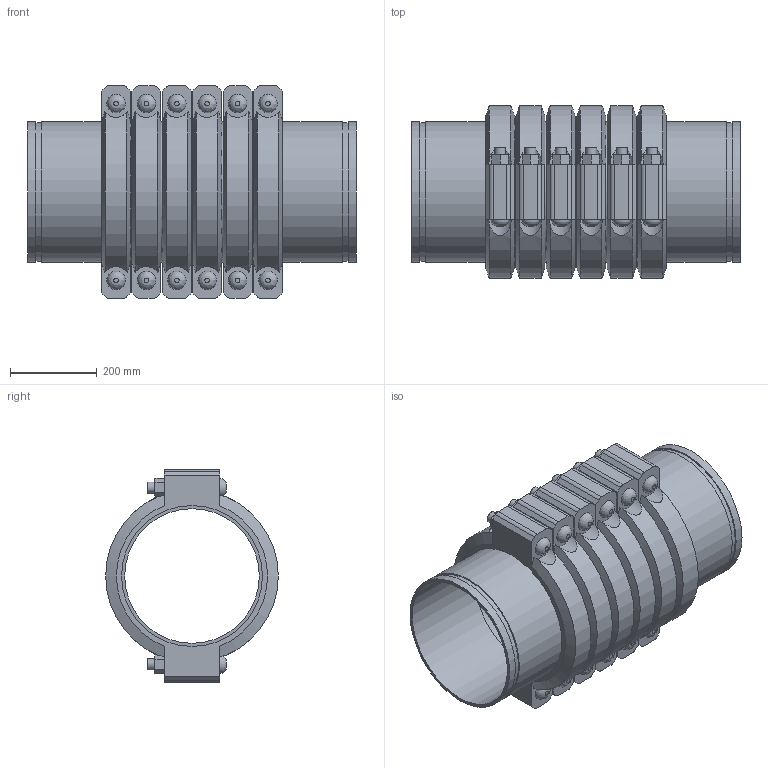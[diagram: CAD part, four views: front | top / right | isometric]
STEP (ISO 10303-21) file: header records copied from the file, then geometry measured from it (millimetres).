
FILE_DESCRIPTION(/* description */ ('VIC SS EXPANSION JOINT 6 COUPLINGS COMPRESSED STYLE 155P (OGS) (POTABLE WATER) ','CAx-IF Rec.Pracs.---Representation and Presentation of Product Manufacturing Information (PMI)---4.0---2014-10-13'),/* implementation_level */ '2;1');
FILE_NAME(/* name */ 'C:\Users\kkamble\AppData\Roaming\Autodesk\ApplicationPlugins\Victaulic.Temp\A518\Victaulic_SS_Expansion Joint_Compressed_6 Couplings_Style 155P (OGS)-Potable Water_6 Coup_Comp_12 (300).stp',/* time_stamp */ '2021-07-16T17:15:01+06:00',/* author */ ('kkamble'),/* organization */ ('Victaulic'),/* preprocessor_version */ 'ST-DEVELOPER v17.2',/* originating_system */ 'Autodesk Inventor 2019',/* authorisation */ '');
FILE_SCHEMA (('AP242_MANAGED_MODEL_BASED_3D_ENGINEERING_MIM_LF { 1 0 10303 442 1 1 4 }'));
Length unit declared in the file: inch
Products named in the file (4): 155-12.0; Nipple-12.0; Nipple-12.0_1; 077-12.0
Assembly tree (13 placements, depth 2):
  155-12.0
    Nipple-12.0  x2
    Nipple-12.0_1  x5
    077-12.0  x6
Bounding box: 755.65 x 397 x 488.95 mm (x, y, z)
Volume: 25218348.3 mm3; surface area: 3545364.1 mm2
Topology: 13 solids, 25 shells, 426 faces, 1044 edges, 732 vertices
Faces by surface type: plane 246, cylinder 144, cone 24, bspline 12
Full cylindrical faces by diameter (mm): 25.4 x24, 27.432 x12, 309.677 x7, 318.287 x14, 323.85 x27
Entity records: 2961 total; most frequent: CARTESIAN_POINT 647, DIRECTION 463, ORIENTED_EDGE 398, EDGE_CURVE 199, AXIS2_PLACEMENT_3D 188, VERTEX_POINT 142, EDGE_LOOP 105, CIRCLE 92
